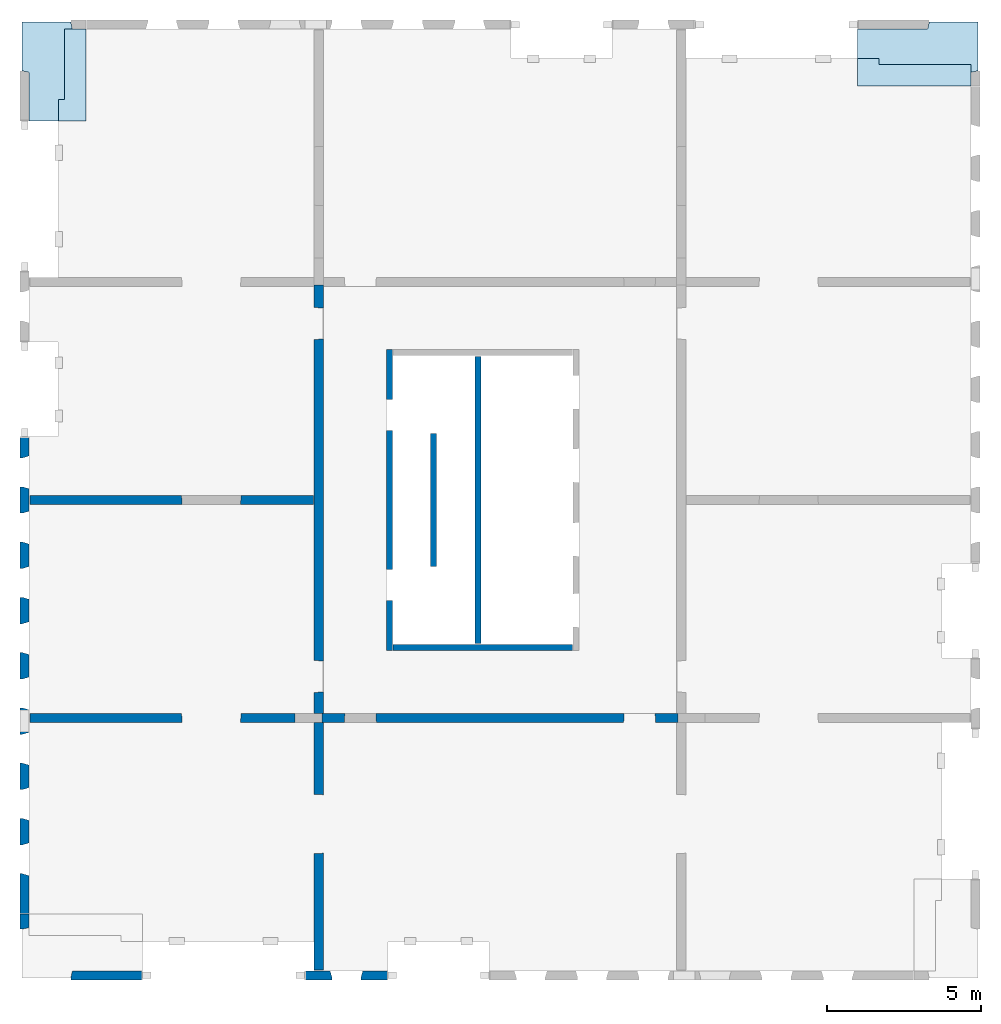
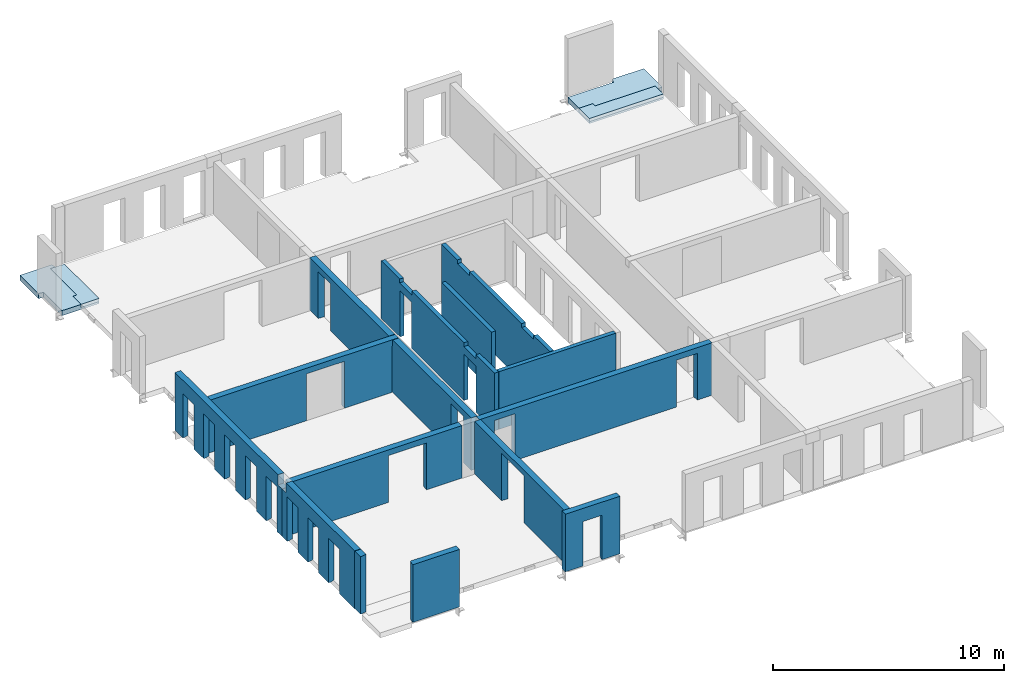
# One storey, part 2 of 4: 14 walls, 4 slabs, 34 openings.
"""IFC2X3 building model written with IfcOpenShell, lengths in millimetres."""

from ifc_helpers import new_model, entity, si_unit, converted_unit, derived_unit, direction, frame, frame_2d, origin, place, context, subcontext, project, spatial, polyline, rectangle, outline, extrude, faceted_brep, material, layer, layer_set, layer_usage, type_object, element, save


model = new_model("IFC2X3")

# Units and contexts
model_context = context("Model", 3, precision=0.01, world=origin(), true_north=direction((6.12303176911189e-17, 1.0)))
body_context = subcontext(model_context, "Body", "Model", "MODEL_VIEW")
ifc_project = project(units=[si_unit("LENGTHUNIT", "METRE", prefix="MILLI"), si_unit("AREAUNIT", "SQUARE_METRE"), si_unit("VOLUMEUNIT", "CUBIC_METRE"), converted_unit("PLANEANGLEUNIT", "DEGREE", entity("IfcRatioMeasure", 0.0174532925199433), si_unit("PLANEANGLEUNIT", "RADIAN"), dimensions=[0, 0, 0, 0, 0, 0, 0]), si_unit("MASSUNIT", "GRAM", prefix="KILO"), derived_unit("MASSDENSITYUNIT", [(si_unit("MASSUNIT", "GRAM", prefix="KILO"), 1), (si_unit("LENGTHUNIT", "METRE"), -3)]), si_unit("TIMEUNIT", "SECOND"), si_unit("FREQUENCYUNIT", "HERTZ"), si_unit("THERMODYNAMICTEMPERATUREUNIT", "DEGREE_CELSIUS"), derived_unit("THERMALTRANSMITTANCEUNIT", [(si_unit("MASSUNIT", "GRAM", prefix="KILO"), 1), (si_unit("THERMODYNAMICTEMPERATUREUNIT", "KELVIN"), -1), (si_unit("TIMEUNIT", "SECOND"), -3)]), derived_unit("VOLUMETRICFLOWRATEUNIT", [(si_unit("LENGTHUNIT", "METRE"), 3), (si_unit("TIMEUNIT", "SECOND"), -1)]), si_unit("ELECTRICCURRENTUNIT", "AMPERE"), si_unit("ELECTRICVOLTAGEUNIT", "VOLT"), si_unit("POWERUNIT", "WATT"), si_unit("FORCEUNIT", "NEWTON", prefix="KILO"), si_unit("ILLUMINANCEUNIT", "LUX"), si_unit("LUMINOUSFLUXUNIT", "LUMEN"), si_unit("LUMINOUSINTENSITYUNIT", "CANDELA"), derived_unit("USERDEFINED", [(si_unit("MASSUNIT", "GRAM", prefix="KILO"), -1), (si_unit("LENGTHUNIT", "METRE"), -2), (si_unit("TIMEUNIT", "SECOND"), 3), (si_unit("LUMINOUSFLUXUNIT", "LUMEN"), 1)]), derived_unit("LINEARVELOCITYUNIT", [(si_unit("LENGTHUNIT", "METRE"), 1), (si_unit("TIMEUNIT", "SECOND"), -1)]), si_unit("PRESSUREUNIT", "PASCAL"), derived_unit("USERDEFINED", [(si_unit("LENGTHUNIT", "METRE"), -2), (si_unit("MASSUNIT", "GRAM", prefix="KILO"), 1), (si_unit("TIMEUNIT", "SECOND"), -2)])], contexts=[model_context])

# Site, building, storey
site_placement = place(None, origin())
site = spatial("IfcSite", under=ifc_project, at=site_placement, Name="Default", CompositionType="ELEMENT")
building_placement = place(site_placement, origin())
building = spatial("IfcBuilding", under=site, at=building_placement, Name="niet gebruiken", CompositionType="ELEMENT")
storey_placement = place(building_placement, frame((0.0, 0.0, 137340.0)))
storey = spatial("IfcBuildingStorey", under=building, at=storey_placement, Name="44 vierenveertigste verdieping", CompositionType="ELEMENT", Elevation=137340.0)

# Slabs
ifc_material_1 = material(Name="NLRS_f2_beton prefab")
ifc_layer_1 = layer(ifc_material_1, 270.0)
ifc_layer_set_1 = layer_set([ifc_layer_1], Name="Floor:NLRS_23.22_FL_beton prefab d=270 3D element_gen")
ifc_layer_usage_1 = layer_usage(ifc_layer_set_1, "AXIS3", "POSITIVE", 0.0)
slab_1_placement = place(storey_placement, origin())
element("IfcSlab", 1, at=slab_1_placement, inside=storey, material=ifc_layer_usage_1, Name="Floor:NLRS_23.22_FL_beton prefab d=270 3D element_gen", ObjectType="Floor:NLRS_23.22_FL_beton prefab d=270 3D element_gen", PredefinedType="LANDING", context=body_context, shape_type="SweptSolid", body=[
    extrude(outline(polyline([(-322.675940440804, -982.471394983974), (1267.47139498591, -982.471394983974), (1267.47139498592, 607.675940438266), (1034.47139498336, 655.152429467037), (1034.47139498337, 1100.5286050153), (-1955.52860501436, 1100.52860501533), (-1955.52860501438, -749.471394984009), (-370.152429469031, -749.471394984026), (-322.675940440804, -982.471394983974)])), frame((127169.471394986, 31795.5286050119, -90.0), z_axis=(0.0, 0.0, -1.0), x_axis=(0.0, 1.0, 0.0)), (0.0, 0.0, 1.0), 270.000000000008),
])
ifc_material_2 = material(Name="NLRS_f2_beton ihwg")
ifc_layer_2 = layer(ifc_material_2, 170.0)
ifc_layer_set_2 = layer_set([ifc_layer_2], Name="Floor:NLRS_23.21_FL_beton ihwg d=170_gen")
ifc_layer_usage_2 = layer_usage(ifc_layer_set_2, "AXIS3", "POSITIVE", 0.0)
slab_2_placement = place(storey_placement, origin())
element("IfcSlab", 2, at=slab_2_placement, inside=storey, material=ifc_layer_usage_2, Name="Floor:NLRS_23.21_FL_beton ihwg d=170_gen", ObjectType="Floor:NLRS_23.21_FL_beton ihwg d=170_gen", PredefinedType="FLOOR", context=body_context, shape_type="SweptSolid", body=[
    extrude(outline(polyline([(-1230.0, -366.666666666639), (-530.0, -366.666666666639), (-530.0, -166.66666666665), (1760.0, -166.666666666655), (1760.0, 533.333333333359), (-1230.0, 533.333333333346), (-1230.0, -366.666666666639)])), frame((127736.666666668, 31070.0, -90.0), z_axis=(0.0, 0.0, -1.0), x_axis=(0.0, 1.0, 0.0)), (0.0, 0.0, 1.0), 169.999999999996),
])
ifc_layer_usage_3 = layer_usage(ifc_layer_set_1, "AXIS3", "POSITIVE", 0.0)
slab_3_placement = place(storey_placement, origin())
element("IfcSlab", 3, at=slab_3_placement, inside=storey, material=ifc_layer_usage_3, Name="Floor:NLRS_23.22_FL_beton prefab d=270 3D element_gen", ObjectType="Floor:NLRS_23.22_FL_beton prefab d=270 3D element_gen", PredefinedType="LANDING", context=body_context, shape_type="SweptSolid", body=[
    extrude(outline(polyline([(-1100.52860501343, -2480.52860501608), (749.471394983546, -2480.52860501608), (749.471394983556, -195.152429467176), (982.471394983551, -147.675940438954), (982.471394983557, 1442.47139498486), (-607.675940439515, 1442.47139498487), (-655.152429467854, 1209.47139498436), (-1100.52860501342, 1209.47139498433), (-1100.52860501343, -2480.52860501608)])), frame((155870.528605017, 32080.5286050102, -90.0), z_axis=(0.0, 0.0, -1.0), x_axis=(0.0, 1.0, 0.0)), (0.0, 0.0, 1.0), 270.000000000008),
])
ifc_layer_usage_4 = layer_usage(ifc_layer_set_2, "AXIS3", "POSITIVE", 0.0)
slab_4_placement = place(storey_placement, origin())
element("IfcSlab", 4, at=slab_4_placement, inside=storey, material=ifc_layer_usage_4, Name="Floor:NLRS_23.21_FL_beton ihwg d=170_gen", ObjectType="Floor:NLRS_23.21_FL_beton ihwg d=170_gen", PredefinedType="FLOOR", context=body_context, shape_type="SweptSolid", body=[
    extrude(outline(polyline([(-533.333333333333, -1463.33333333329), (366.666666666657, -1463.33333333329), (366.666666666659, -763.333333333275), (166.66666666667, -763.333333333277), (166.666666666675, 2226.66666666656), (-533.333333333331, 2226.66666666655), (-533.333333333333, -1463.33333333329)])), frame((154853.333333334, 31513.3333333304, -90.0), z_axis=(0.0, 0.0, -1.0), x_axis=(0.0, 1.0, 0.0)), (0.0, 0.0, 1.0), 169.999999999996),
])

# Wall, openings
ifc_layer_3 = layer(ifc_material_1, 200.0)
ifc_layer_set_3 = layer_set([ifc_layer_3], Name="Basic Wall:NLRS_22.21_WA_beton prefab d=200_gen")
ifc_layer_usage_5 = layer_usage(ifc_layer_set_3, "AXIS2", "NEGATIVE", 100.0)
wall_type_1 = type_object("IfcWallType", Name="Basic Wall:NLRS_22.21_WA_beton prefab d=200_gen", PredefinedType="STANDARD", material=ifc_layer_set_3)
wall_1_placement = place(storey_placement, frame((138150.0, 22400.0, -50.0), z_axis=(0.0, 0.0, 1.0), x_axis=(0.0, -1.0, 0.0)))
wall_1 = element("IfcWallStandardCase", 5, at=wall_1_placement, inside=storey, type_object=wall_type_1, material=ifc_layer_usage_5, Name="Basic Wall:NLRS_22.21_WA_beton prefab d=200_gen", ObjectType="Basic Wall:NLRS_22.21_WA_beton prefab d=200_gen", context=body_context, shape_type="SweptSolid", body=[
    extrude(rectangle(XDim=9800.0, YDim=199.999999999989, at=frame_2d((4900.0, 3.76587649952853e-13), x_axis=(-1.0, 0.0))), origin(), (0.0, 0.0, 1.0), 3040.0),
])
opening_1_placement = place(wall_1_placement, origin())
element("IfcOpeningElement", 6, at=opening_1_placement, cuts=wall_1, Name="Basic Wall:NLRS_22.21_WA_beton prefab d=200_gen", ObjectType="Opening", context=body_context, shape_type="SweptSolid", body=[
    extrude(rectangle(XDim=200.000000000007, YDim=1044.0, at=frame_2d((8.66862137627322e-12, 0.0), x_axis=(1.0, 0.0))), frame((7672.0, -100.0, 2940.0), z_axis=(0.0, 1.0, 0.0), x_axis=(0.0, 0.0, -1.0)), (0.0, 0.0, 1.0), 199.999999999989),
])
opening_2_placement = place(wall_1_placement, origin())
element("IfcOpeningElement", 7, at=opening_2_placement, cuts=wall_1, Name="Basic Wall:NLRS_22.21_WA_beton prefab d=200_gen", ObjectType="Opening", context=body_context, shape_type="SweptSolid", body=[
    extrude(rectangle(XDim=200.000000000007, YDim=1044.0, at=frame_2d((8.66862137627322e-12, 2.1600499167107e-12), x_axis=(1.0, 0.0))), frame((2128.0, -100.0, 2940.0), z_axis=(0.0, 1.0, 0.0), x_axis=(0.0, 0.0, -1.0)), (0.0, 0.0, 1.0), 199.999999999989),
])
opening_3_placement = place(wall_1_placement, origin())
element("IfcOpeningElement", 8, at=opening_3_placement, cuts=wall_1, Name="Basic Wall:NLRS_22.21_WA_beton prefab d=200_gen", ObjectType="Opening", context=body_context, shape_type="SweptSolid", body=[
    extrude(rectangle(XDim=2435.0, YDim=1015.99999999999, at=frame_2d((0.0, 1.10844666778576e-12), x_axis=(1.0, 0.0))), frame((7672.0, -100.0, 1217.50000000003), z_axis=(0.0, 1.0, 0.0), x_axis=(0.0, 0.0, -1.0)), (0.0, 0.0, 1.0), 199.999999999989),
])
opening_4_placement = place(wall_1_placement, origin())
element("IfcOpeningElement", 9, at=opening_4_placement, cuts=wall_1, Name="Basic Wall:NLRS_22.21_WA_beton prefab d=200_gen", ObjectType="Opening", context=body_context, shape_type="SweptSolid", body=[
    extrude(rectangle(XDim=2435.0, YDim=1015.99999999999, at=frame_2d((0.0, -2.18847162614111e-12), x_axis=(1.0, 0.0))), frame((2128.0, -100.0, 1217.50000000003), z_axis=(0.0, 1.0, 0.0), x_axis=(0.0, 0.0, -1.0)), (0.0, 0.0, 1.0), 199.999999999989),
])

ifc_layer_usage_6 = layer_usage(ifc_layer_set_3, "AXIS2", "NEGATIVE", 100.0)
wall_2_placement = place(storey_placement, frame((141030.0, 22180.0, -50.0), z_axis=(0.0, 0.0, 1.0), x_axis=(0.0, -1.0, 0.0)))
wall_2 = element("IfcWallStandardCase", 10, at=wall_2_placement, inside=storey, type_object=wall_type_1, material=ifc_layer_usage_6, Name="Basic Wall:NLRS_22.21_WA_beton prefab d=200_gen", ObjectType="Basic Wall:NLRS_22.21_WA_beton prefab d=200_gen", context=body_context, shape_type="SweptSolid", body=[
    extrude(rectangle(XDim=9360.0, YDim=199.999999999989, at=frame_2d((4680.0, -2.8421709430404e-14), x_axis=(-1.0, 0.0))), origin(), (0.0, 0.0, 1.0), 3040.0),
])
opening_5_placement = place(wall_2_placement, origin())
element("IfcOpeningElement", 11, at=opening_5_placement, cuts=wall_2, Name="Basic Wall:NLRS_22.21_WA_beton prefab d=200_gen", ObjectType="Opening", context=body_context, shape_type="SweptSolid", body=[
    extrude(rectangle(XDim=70.0000000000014, YDim=1044.00000000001, at=frame_2d((-8.66506866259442e-12, 0.0), x_axis=(1.0, 0.0))), frame((7452.0, -100.0, 35.0), z_axis=(0.0, 1.0, 0.0), x_axis=(0.0, 0.0, -1.0)), (0.0, 0.0, 1.0), 199.999999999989),
])
opening_6_placement = place(wall_2_placement, origin())
element("IfcOpeningElement", 12, at=opening_6_placement, cuts=wall_2, Name="Basic Wall:NLRS_22.21_WA_beton prefab d=200_gen", ObjectType="Opening", context=body_context, shape_type="SweptSolid", body=[
    extrude(rectangle(XDim=70.0000000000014, YDim=1044.00000000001, at=frame_2d((-8.66506866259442e-12, 0.0), x_axis=(1.0, 0.0))), frame((1908.0, -100.0, 35.0), z_axis=(0.0, 1.0, 0.0), x_axis=(0.0, 0.0, -1.0)), (0.0, 0.0, 1.0), 199.999999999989),
])
opening_7_placement = place(wall_2_placement, origin())
element("IfcOpeningElement", 13, at=opening_7_placement, cuts=wall_2, Name="Basic Wall:NLRS_22.21_WA_beton prefab d=200_gen", ObjectType="Opening", context=body_context, shape_type="SweptSolid", body=[
    extrude(rectangle(XDim=200.000000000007, YDim=1044.00000000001, at=frame_2d((8.66862137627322e-12, 0.0), x_axis=(1.0, 0.0))), frame((1908.0, -100.0, 2940.0), z_axis=(0.0, 1.0, 0.0), x_axis=(0.0, 0.0, -1.0)), (0.0, 0.0, 1.0), 199.999999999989),
])
opening_8_placement = place(wall_2_placement, origin())
element("IfcOpeningElement", 14, at=opening_8_placement, cuts=wall_2, Name="Basic Wall:NLRS_22.21_WA_beton prefab d=200_gen", ObjectType="Opening", context=body_context, shape_type="SweptSolid", body=[
    extrude(rectangle(XDim=200.000000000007, YDim=1044.00000000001, at=frame_2d((8.66862137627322e-12, 0.0), x_axis=(1.0, 0.0))), frame((7452.0, -100.0, 2940.0), z_axis=(0.0, 1.0, 0.0), x_axis=(0.0, 0.0, -1.0)), (0.0, 0.0, 1.0), 199.999999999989),
])
opening_9_placement = place(wall_2_placement, origin())
element("IfcOpeningElement", 15, at=opening_9_placement, cuts=wall_2, Name="Basic Wall:NLRS_22.21_WA_beton prefab d=200_gen", ObjectType="Recess", context=body_context, shape_type="SweptSolid", body=[
    extrude(rectangle(XDim=399.999999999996, YDim=280.000000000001, at=frame_2d((-2.1600499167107e-12, -8.66862137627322e-12), x_axis=(0.0, 1.0))), frame((770.0, -60.0, 438.0), z_axis=(0.0, 1.0, 0.0), x_axis=(1.0, 0.0, 0.0)), (0.0, 0.0, 1.0), 159.999999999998),
])
opening_10_placement = place(wall_2_placement, origin())
element("IfcOpeningElement", 16, at=opening_10_placement, cuts=wall_2, Name="Basic Wall:NLRS_22.21_WA_beton prefab d=200_gen", ObjectType="Recess", context=body_context, shape_type="SweptSolid", body=[
    extrude(rectangle(XDim=399.999999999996, YDim=280.000000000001, at=frame_2d((-2.1600499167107e-12, -8.66862137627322e-12), x_axis=(0.0, 1.0))), frame((1570.0, -60.0, 438.0), z_axis=(0.0, 1.0, 0.0), x_axis=(1.0, 0.0, 0.0)), (0.0, 0.0, 1.0), 159.999999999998),
])
opening_11_placement = place(wall_2_placement, origin())
element("IfcOpeningElement", 17, at=opening_11_placement, cuts=wall_2, Name="Basic Wall:NLRS_22.21_WA_beton prefab d=200_gen", ObjectType="Recess", context=body_context, shape_type="SweptSolid", body=[
    extrude(rectangle(XDim=399.999999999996, YDim=279.999999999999, at=frame_2d((-1.08002495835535e-12, -8.66862137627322e-12), x_axis=(0.0, 1.0))), frame((3160.0, -60.0, 438.0), z_axis=(0.0, 1.0, 0.0), x_axis=(1.0, 0.0, 0.0)), (0.0, 0.0, 1.0), 159.999999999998),
])
opening_12_placement = place(wall_2_placement, origin())
element("IfcOpeningElement", 18, at=opening_12_placement, cuts=wall_2, Name="Basic Wall:NLRS_22.21_WA_beton prefab d=200_gen", ObjectType="Recess", context=body_context, shape_type="SweptSolid", body=[
    extrude(rectangle(XDim=399.999999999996, YDim=279.999999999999, at=frame_2d((1.08002495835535e-12, -8.66862137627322e-12), x_axis=(0.0, 1.0))), frame((3960.0, -60.0, 438.0), z_axis=(0.0, 1.0, 0.0), x_axis=(1.0, 0.0, 0.0)), (0.0, 0.0, 1.0), 159.999999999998),
])

# Walls
ifc_layer_usage_7 = layer_usage(ifc_layer_set_3, "AXIS2", "NEGATIVE", 100.0)
wall_3_placement = place(storey_placement, frame((139590.0, 19660.0, -50.0), z_axis=(0.0, 0.0, 1.0), x_axis=(0.0, -1.0, 0.0)))
element("IfcWallStandardCase", 19, at=wall_3_placement, inside=storey, type_object=wall_type_1, material=ifc_layer_usage_7, Name="Basic Wall:NLRS_22.21_WA_beton prefab d=200_gen", ObjectType="Basic Wall:NLRS_22.21_WA_beton prefab d=200_gen", context=body_context, shape_type="SweptSolid", body=[
    extrude(rectangle(XDim=4320.00000000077, YDim=199.999999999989, at=frame_2d((2160.00000000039, 0.0), x_axis=(-1.0, 0.0))), origin(), (0.0, 0.0, 1.0), 3040.0),
])
ifc_layer_usage_8 = layer_usage(ifc_layer_set_3, "AXIS2", "NEGATIVE", 100.0)
wall_4_placement = place(storey_placement, frame((138270.0, 12700.0, -50.0)))
element("IfcWallStandardCase", 20, at=wall_4_placement, inside=storey, type_object=wall_type_1, material=ifc_layer_usage_8, Name="Basic Wall:NLRS_22.21_WA_beton prefab d=200_gen", ObjectType="Basic Wall:NLRS_22.21_WA_beton prefab d=200_gen", context=body_context, shape_type="SweptSolid", body=[
    extrude(rectangle(XDim=5839.99999999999, YDim=199.999999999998, at=frame_2d((2919.99999999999, -6.82121026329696e-13), x_axis=(-1.0, 0.0))), origin(), (0.0, 0.0, 1.0), 3040.0),
])

# Wall, opening
ifc_layer_4 = layer(ifc_material_1, 300.0)
ifc_layer_set_4 = layer_set([ifc_layer_4], Name="Basic Wall:NLRS_22.21_WA_beton prefab d=300_gen")
ifc_layer_usage_9 = layer_usage(ifc_layer_set_4, "AXIS2", "NEGATIVE", 150.0)
wall_type_2 = type_object("IfcWallType", Name="Basic Wall:NLRS_22.21_WA_beton prefab d=300_gen", PredefinedType="STANDARD", material=ifc_layer_set_4)
wall_5_placement = place(storey_placement, frame((135850.0, 10250.0, -70.0), z_axis=(0.0, 0.0, 1.0), x_axis=(0.0, -1.0, 0.0)))
wall_5 = element("IfcWallStandardCase", 21, at=wall_5_placement, inside=storey, type_object=wall_type_2, material=ifc_layer_usage_9, Name="Basic Wall:NLRS_22.21_WA_beton prefab d=300_gen", ObjectType="Basic Wall:NLRS_22.21_WA_beton prefab d=300_gen", context=body_context, shape_type="SweptSolid", body=[
    extrude(rectangle(XDim=8059.99999999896, YDim=300.000000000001, at=frame_2d((4029.99999999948, 1.22213350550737e-12), x_axis=(-1.0, 0.0))), origin(), (0.0, 0.0, 1.0), 2769.99999999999),
])
opening_13_placement = place(wall_5_placement, frame((4268.0, -150.0, 0.0)))
element("IfcOpeningElement", 22, at=opening_13_placement, cuts=wall_5, Name="Basic Wall:NLRS_22.21_WA_beton prefab d=300_gen", ObjectType="Opening", context=body_context, shape_type="Brep", body=[
    faceted_brep([(-18.0, 300.0, 2470.0), (-18.0, 300.0, 0.0), (-1918.0, 300.0, 0.0), (-1918.0, 300.0, 2470.0), (0.0, 0.0, 2488.0), (-1936.0, 0.0, 2488.0), (-1936.0, 0.0, 0.0), (0.0, 0.0, 0.0)], [[[0, 1, 2, 3]], [[4, 5, 6, 7]], [[4, 0, 3, 5]], [[5, 3, 2, 6]], [[6, 2, 1, 7]], [[7, 1, 0, 4]]]),
])

# Wall, openings
ifc_layer_usage_10 = layer_usage(ifc_layer_set_4, "AXIS2", "NEGATIVE", 150.0)
wall_6_placement = place(storey_placement, frame((135950.003540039, 10400.0, -70.0)))
wall_6 = element("IfcWallStandardCase", 23, at=wall_6_placement, inside=storey, type_object=wall_type_2, material=ifc_layer_usage_10, Name="Basic Wall:NLRS_22.21_WA_beton prefab d=300_gen", ObjectType="Basic Wall:NLRS_22.21_WA_beton prefab d=300_gen", context=body_context, shape_type="SweptSolid", body=[
    extrude(rectangle(XDim=11599.9964599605, YDim=300.000000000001, at=frame_2d((5799.99822998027, 1.70530256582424e-13), x_axis=(-1.0, 0.0))), origin(), (0.0, 0.0, 1.0), 2769.99999999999),
])
opening_14_placement = place(wall_6_placement, frame((731.996459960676, -150.0, 0.0)))
element("IfcOpeningElement", 24, at=opening_14_placement, cuts=wall_6, Name="Basic Wall:NLRS_22.21_WA_beton prefab d=300_gen", ObjectType="Opening", context=body_context, shape_type="Brep", body=[
    faceted_brep([(0.0, 0.0, 2466.0), (18.0, 300.0, 2448.0), (18.0, 300.0, 0.0), (0.0, 0.0, 0.0), (1024.0, 300.0, 0.0), (1042.0, 0.0, 0.0), (1024.0, 300.0, 2448.0), (1042.0, 0.0, 2466.0)], [[[0, 1, 2, 3]], [[3, 2, 4, 5]], [[6, 4, 2, 1]], [[7, 0, 3, 5]], [[7, 6, 1, 0]], [[5, 4, 6, 7]]]),
])
opening_15_placement = place(wall_6_placement, frame((9825.99645996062, -150.0, 0.0)))
element("IfcOpeningElement", 25, at=opening_15_placement, cuts=wall_6, Name="Basic Wall:NLRS_22.21_WA_beton prefab d=300_gen", ObjectType="Opening", context=body_context, shape_type="Brep", body=[
    faceted_brep([(0.0, 0.0, 2466.0), (18.0, 300.0, 2448.0), (18.0, 300.0, 0.0), (0.0, 0.0, 0.0), (1024.0, 300.0, 0.0), (1042.0, 0.0, 0.0), (1024.0, 300.0, 2448.0), (1042.0, 0.0, 2466.0)], [[[0, 1, 2, 3]], [[3, 2, 4, 5]], [[6, 4, 2, 1]], [[7, 0, 3, 5]], [[7, 6, 1, 0]], [[5, 4, 6, 7]]]),
])

ifc_layer_usage_11 = layer_usage(ifc_layer_set_4, "AXIS2", "NEGATIVE", 150.0)
wall_7_placement = place(storey_placement, frame((126440.0, 17500.0, -70.0)))
wall_7 = element("IfcWallStandardCase", 26, at=wall_7_placement, inside=storey, type_object=wall_type_2, material=ifc_layer_usage_11, Name="Basic Wall:NLRS_22.21_WA_beton prefab d=300_gen", ObjectType="Basic Wall:NLRS_22.21_WA_beton prefab d=300_gen", context=body_context, shape_type="SweptSolid", body=[
    extrude(rectangle(XDim=9559.9999999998, YDim=300.000000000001, at=frame_2d((4779.9999999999, -5.54223333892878e-13), x_axis=(-1.0, 0.0))), origin(), (0.0, 0.0, 1.0), 2769.99999999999),
])
opening_16_placement = place(wall_7_placement, frame((4942.0, -150.0, 0.0)))
element("IfcOpeningElement", 27, at=opening_16_placement, cuts=wall_7, Name="Basic Wall:NLRS_22.21_WA_beton prefab d=300_gen", ObjectType="Opening", context=body_context, shape_type="Brep", body=[
    faceted_brep([(1918.0, 0.0, 2470.0), (18.0, 0.0, 2470.0), (18.0, 0.0, 0.0), (1918.0, 0.0, 0.0), (1936.0, 300.0, 2488.0), (1936.0, 300.0, 0.0), (0.0, 300.0, 0.0), (0.0, 300.0, 2488.0)], [[[0, 1, 2, 3]], [[4, 5, 6, 7]], [[4, 7, 1, 0]], [[7, 6, 2, 1]], [[6, 5, 3, 2]], [[5, 4, 0, 3]]]),
])
opening_17_placement = place(wall_7_placement, origin())
element("IfcOpeningElement", 28, at=opening_17_placement, cuts=wall_7, Name="Basic Wall:NLRS_22.21_WA_beton prefab d=300_gen", ObjectType="Opening", context=body_context, shape_type="SweptSolid", body=[
    extrude(rectangle(XDim=2439.99999999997, YDim=319.999999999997, at=frame_2d((0.0, 0.0), x_axis=(0.0, 1.0))), frame((9400.0, 150.0, 1220.0), z_axis=(0.0, -1.0, 0.0), x_axis=(1.0, 0.0, 0.0)), (0.0, 0.0, 1.0), 300.0),
])

# Wall, opening
ifc_layer_usage_12 = layer_usage(ifc_layer_set_4, "AXIS2", "NEGATIVE", 150.0)
wall_8_placement = place(storey_placement, frame((126440.0, 10400.0, -70.0)))
wall_8 = element("IfcWallStandardCase", 29, at=wall_8_placement, inside=storey, type_object=wall_type_2, material=ifc_layer_usage_12, Name="Basic Wall:NLRS_22.21_WA_beton prefab d=300_gen", ObjectType="Basic Wall:NLRS_22.21_WA_beton prefab d=300_gen", context=body_context, shape_type="SweptSolid", body=[
    extrude(rectangle(XDim=8630.00354003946, YDim=300.000000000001, at=frame_2d((4315.00177001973, -2.70006239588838e-13), x_axis=(-1.0, 0.0))), origin(), (0.0, 0.0, 1.0), 2769.99999999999),
])
opening_18_placement = place(wall_8_placement, frame((4942.0, -150.0, 0.0)))
element("IfcOpeningElement", 30, at=opening_18_placement, cuts=wall_8, Name="Basic Wall:NLRS_22.21_WA_beton prefab d=300_gen", ObjectType="Opening", context=body_context, shape_type="Brep", body=[
    faceted_brep([(1918.0, 0.0, 2470.0), (18.0, 0.0, 2470.0), (18.0, 0.0, 0.0), (1918.0, 0.0, 0.0), (1936.0, 300.0, 2488.0), (1936.0, 300.0, 0.0), (0.0, 300.0, 0.0), (0.0, 300.0, 2488.0)], [[[0, 1, 2, 3]], [[4, 5, 6, 7]], [[4, 7, 1, 0]], [[7, 6, 2, 1]], [[6, 5, 3, 2]], [[5, 4, 0, 3]]]),
])

# Wall, openings
ifc_layer_usage_13 = layer_usage(ifc_layer_set_4, "AXIS2", "NEGATIVE", 150.0)
wall_9_placement = place(storey_placement, frame((135850.0, 24500.0, -70.0), z_axis=(0.0, 0.0, 1.0), x_axis=(0.0, -1.0, 0.0)))
wall_9 = element("IfcWallStandardCase", 31, at=wall_9_placement, inside=storey, type_object=wall_type_2, material=ifc_layer_usage_13, Name="Basic Wall:NLRS_22.21_WA_beton prefab d=300_gen", ObjectType="Basic Wall:NLRS_22.21_WA_beton prefab d=300_gen", context=body_context, shape_type="SweptSolid", body=[
    extrude(rectangle(XDim=13949.999999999, YDim=300.000000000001, at=frame_2d((6974.99999999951, 4.2632564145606e-14), x_axis=(-1.0, 0.0))), origin(), (0.0, 0.0, 1.0), 2769.99999999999),
])
opening_19_placement = place(wall_9_placement, frame((13268.0, -150.0, 0.0)))
element("IfcOpeningElement", 32, at=opening_19_placement, cuts=wall_9, Name="Basic Wall:NLRS_22.21_WA_beton prefab d=300_gen", ObjectType="Opening", context=body_context, shape_type="Brep", body=[
    faceted_brep([(-1042.0, 0.0, 2466.0), (-1024.0, 300.0, 2448.0), (-1024.0, 300.0, 0.0), (-1042.0, 0.0, 0.0), (-18.0, 300.0, 0.0), (0.0, 0.0, 0.0), (-18.0, 300.0, 2448.0), (0.0, 0.0, 2466.0)], [[[0, 1, 2, 3]], [[3, 2, 4, 5]], [[6, 4, 2, 1]], [[7, 0, 3, 5]], [[7, 6, 1, 0]], [[5, 4, 6, 7]]]),
])
opening_20_placement = place(wall_9_placement, frame((1774.0, -150.0, 0.0)))
element("IfcOpeningElement", 33, at=opening_20_placement, cuts=wall_9, Name="Basic Wall:NLRS_22.21_WA_beton prefab d=300_gen", ObjectType="Opening", context=body_context, shape_type="Brep", body=[
    faceted_brep([(-1042.0, 0.0, 2466.0), (-1024.0, 300.0, 2448.0), (-1024.0, 300.0, 0.0), (-1042.0, 0.0, 0.0), (-18.0, 300.0, 0.0), (0.0, 0.0, 0.0), (-18.0, 300.0, 2448.0), (0.0, 0.0, 2466.0)], [[[0, 1, 2, 3]], [[3, 2, 4, 5]], [[6, 4, 2, 1]], [[7, 0, 3, 5]], [[7, 6, 1, 0]], [[5, 4, 6, 7]]]),
])
opening_21_placement = place(wall_9_placement, origin())
element("IfcOpeningElement", 34, at=opening_21_placement, cuts=wall_9, Name="Basic Wall:NLRS_22.21_WA_beton prefab d=300_gen", ObjectType="Opening", context=body_context, shape_type="SweptSolid", body=[
    extrude(rectangle(XDim=350.000000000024, YDim=339.999999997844, at=frame_2d((0.0, 0.0), x_axis=(0.0, 1.0))), frame((7000.0, 150.0, 2595.0), z_axis=(0.0, -1.0, 0.0), x_axis=(-1.0, 0.0, 0.0)), (0.0, 0.0, 1.0), 300.0),
])

# Wall, opening
ifc_layer_5 = layer(ifc_material_1, 300.0)
ifc_layer_set_5 = layer_set([ifc_layer_5], Name="Basic Wall:NLRS_21.21_WA_beton prefab d=300/320_gen")
ifc_layer_usage_14 = layer_usage(ifc_layer_set_5, "AXIS2", "NEGATIVE", 150.0)
wall_type_3 = type_object("IfcWallType", Name="Basic Wall:NLRS_21.21_WA_beton prefab d=300/320_gen", PredefinedType="STANDARD", material=ifc_layer_set_5)
wall_10_placement = place(storey_placement, frame((138110.0, 2020.0, -50.0), z_axis=(0.0, 0.0, 1.0), x_axis=(-1.0, 0.0, 0.0)))
wall_10 = element("IfcWallStandardCase", 35, at=wall_10_placement, inside=storey, type_object=wall_type_3, material=ifc_layer_usage_14, Name="Basic Wall:NLRS_21.21_WA_beton prefab d=300/320_gen", ObjectType="Basic Wall:NLRS_21.21_WA_beton prefab d=300/320_gen", context=body_context, shape_type="SweptSolid", body=[
    extrude(rectangle(XDim=2720.00000000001, YDim=300.0, at=frame_2d((1360.0, -8.5265128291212e-14), x_axis=(-1.0, 0.0))), origin(), (0.0, 0.0, 1.0), 3040.0),
])
opening_22_placement = place(wall_10_placement, frame((1895.0, 150.0, -20.0)))
element("IfcOpeningElement", 36, at=opening_22_placement, cuts=wall_10, Name="Basic Wall:NLRS_21.21_WA_beton prefab d=300/320_gen", ObjectType="Opening", context=body_context, shape_type="Brep", body=[
    faceted_brep([(-1070.0, -300.0, 2405.0), (-1070.0, -300.0, 0.0), (0.0, -300.0, 0.0), (0.0, -300.0, 2405.0), (-65.0, -81.0, 2370.0), (-1005.0, -81.0, 2370.0), (-65.0, -81.0, 0.0), (-1005.0, -81.0, 0.0), (-1005.0, 0.0, 0.0), (-65.0, 0.0, 0.0), (-1005.0, 0.0, 2370.0), (-65.0, 0.0, 2370.0)], [[[0, 1, 2, 3]], [[3, 4, 5, 0]], [[2, 6, 4, 3]], [[1, 7, 8, 9, 6, 2]], [[0, 5, 7, 1]], [[10, 11, 9, 8]], [[10, 5, 4, 11]], [[11, 4, 6, 9]], [[8, 7, 5, 10]]]),
])

# Wall, openings
ifc_layer_usage_15 = layer_usage(ifc_layer_set_5, "AXIS2", "NEGATIVE", 150.0)
wall_11_placement = place(storey_placement, frame((126270.0, 4040.0, -50.0), z_axis=(0.0, 0.0, 1.0), x_axis=(0.0, 1.0, 0.0)))
wall_11 = element("IfcWallStandardCase", 37, at=wall_11_placement, inside=storey, type_object=wall_type_3, material=ifc_layer_usage_15, Name="Basic Wall:NLRS_21.21_WA_beton prefab d=300/320_gen", ObjectType="Basic Wall:NLRS_21.21_WA_beton prefab d=300/320_gen", context=body_context, shape_type="SweptSolid", body=[
    extrude(rectangle(XDim=6249.99999999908, YDim=300.000000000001, at=frame_2d((3124.99999999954, 0.0), x_axis=(-1.0, 0.0))), origin(), (0.0, 0.0, 1.0), 3040.0),
])
opening_23_placement = place(wall_11_placement, frame((1225.0, 150.0, -20.0)))
element("IfcOpeningElement", 38, at=opening_23_placement, cuts=wall_11, Name="Basic Wall:NLRS_21.21_WA_beton prefab d=300/320_gen", ObjectType="Opening", context=body_context, shape_type="Brep", body=[
    faceted_brep([(0.0, -300.0, 2405.0), (0.0, -300.0, 0.0), (1070.0, -300.0, 0.0), (1070.0, -300.0, 2405.0), (1005.0, -81.0, 2370.0), (65.0, -81.0, 2370.0), (1005.0, -81.0, 0.0), (65.0, -81.0, 0.0), (65.0, 0.0, 0.0), (1005.0, 0.0, 0.0), (65.0, 0.0, 2370.0), (1005.0, 0.0, 2370.0)], [[[0, 1, 2, 3]], [[3, 4, 5, 0]], [[2, 6, 4, 3]], [[1, 7, 8, 9, 6, 2]], [[0, 5, 7, 1]], [[10, 11, 9, 8]], [[10, 5, 4, 11]], [[11, 4, 6, 9]], [[8, 7, 5, 10]]]),
])
opening_24_placement = place(wall_11_placement, frame((3025.0, 150.0, -20.0)))
element("IfcOpeningElement", 39, at=opening_24_placement, cuts=wall_11, Name="Basic Wall:NLRS_21.21_WA_beton prefab d=300/320_gen", ObjectType="Opening", context=body_context, shape_type="Brep", body=[
    faceted_brep([(0.0, -300.0, 2405.0), (0.0, -300.0, 0.0), (1070.0, -300.0, 0.0), (1070.0, -300.0, 2405.0), (1005.0, -81.0, 2370.0), (65.0, -81.0, 2370.0), (1005.0, -81.0, 0.0), (65.0, -81.0, 0.0), (65.0, 0.0, 0.0), (1005.0, 0.0, 0.0), (65.0, 0.0, 2370.0), (1005.0, 0.0, 2370.0)], [[[0, 1, 2, 3]], [[3, 4, 5, 0]], [[2, 6, 4, 3]], [[1, 7, 8, 9, 6, 2]], [[0, 5, 7, 1]], [[10, 11, 9, 8]], [[10, 5, 4, 11]], [[11, 4, 6, 9]], [[8, 7, 5, 10]]]),
])
opening_25_placement = place(wall_11_placement, frame((4825.0, 150.0, -20.0)))
element("IfcOpeningElement", 40, at=opening_25_placement, cuts=wall_11, Name="Basic Wall:NLRS_21.21_WA_beton prefab d=300/320_gen", ObjectType="Opening", context=body_context, shape_type="Brep", body=[
    faceted_brep([(0.0, -300.0, 2405.0), (0.0, -300.0, 0.0), (1070.0, -300.0, 0.0), (1070.0, -300.0, 2405.0), (1005.0, -81.0, 2370.0), (65.0, -81.0, 2370.0), (1005.0, -81.0, 0.0), (65.0, -81.0, 0.0), (65.0, 0.0, 0.0), (1005.0, 0.0, 0.0), (65.0, 0.0, 2370.0), (1005.0, 0.0, 2370.0)], [[[0, 1, 2, 3]], [[3, 4, 5, 0]], [[2, 6, 4, 3]], [[1, 7, 8, 9, 6, 2]], [[0, 5, 7, 1]], [[10, 11, 9, 8]], [[10, 5, 4, 11]], [[11, 4, 6, 9]], [[8, 7, 5, 10]]]),
])
opening_26_placement = place(wall_11_placement, origin())
element("IfcOpeningElement", 41, at=opening_26_placement, cuts=wall_11, Name="Basic Wall:NLRS_21.21_WA_beton prefab d=300/320_gen", ObjectType="Opening", context=body_context, shape_type="SweptSolid", body=[
    extrude(rectangle(XDim=534.99999999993, YDim=344.999999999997, at=frame_2d((0.0, 1.08002495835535e-12), x_axis=(1.0, 0.0))), frame((6077.49999999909, 150.0, 2772.50000000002), z_axis=(0.0, -1.0, 0.0), x_axis=(0.0, 0.0, 1.0)), (0.0, 0.0, 1.0), 300.0),
])

# Wall, opening
ifc_layer_usage_16 = layer_usage(ifc_layer_set_5, "AXIS2", "NEGATIVE", 150.0)
wall_12_placement = place(storey_placement, frame((130110.0, 2020.0, -50.0), z_axis=(0.0, 0.0, 1.0), x_axis=(-1.0, 0.0, 0.0)))
wall_12 = element("IfcWallStandardCase", 42, at=wall_12_placement, inside=storey, type_object=wall_type_3, material=ifc_layer_usage_16, Name="Basic Wall:NLRS_21.21_WA_beton prefab d=300/320_gen", ObjectType="Basic Wall:NLRS_21.21_WA_beton prefab d=300/320_gen", context=body_context, shape_type="SweptSolid", body=[
    extrude(rectangle(XDim=2330.00000000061, YDim=300.0, at=frame_2d((1165.00000000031, -5.6843418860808e-14), x_axis=(-1.0, 0.0))), origin(), (0.0, 0.0, 1.0), 3040.0),
])
opening_27_placement = place(wall_12_placement, frame((2330.0, 69.0, 0.0)))
element("IfcOpeningElement", 43, at=opening_27_placement, cuts=wall_12, Name="Basic Wall:NLRS_21.21_WA_beton prefab d=300/320_gen", ObjectType="Opening", context=body_context, shape_type="Brep", body=[
    faceted_brep([(0.0, -319.0, 3040.0), (0.0, 0.0, 3040.0), (-65.0, -319.0, 3040.0), (0.0, -319.0, 0.0), (-65.0, -319.0, 0.0), (0.0, 0.0, 0.0)], [[[0, 1, 2]], [[3, 4, 5]], [[2, 4, 3, 0]], [[0, 3, 5, 1]], [[1, 5, 4, 2]]]),
])

ifc_layer_usage_17 = layer_usage(ifc_layer_set_5, "AXIS2", "NEGATIVE", 150.0)
wall_13_placement = place(storey_placement, frame((126270.0, 3530.0, -50.0), z_axis=(0.0, 0.0, 1.0), x_axis=(0.0, 1.0, 0.0)))
wall_13 = element("IfcWallStandardCase", 44, at=wall_13_placement, inside=storey, type_object=wall_type_3, material=ifc_layer_usage_17, Name="Basic Wall:NLRS_21.21_WA_beton prefab d=300/320_gen", ObjectType="Basic Wall:NLRS_21.21_WA_beton prefab d=300/320_gen", context=body_context, shape_type="SweptSolid", body=[
    extrude(rectangle(XDim=489.999999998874, YDim=300.000000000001, at=frame_2d((244.999999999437, -3.25428572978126e-12), x_axis=(-1.0, 0.0))), origin(), (0.0, 0.0, 1.0), 3040.0),
])
opening_28_placement = place(wall_13_placement, frame((-1.97405825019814e-09, 69.0, 0.0)))
element("IfcOpeningElement", 45, at=opening_28_placement, cuts=wall_13, Name="Basic Wall:NLRS_21.21_WA_beton prefab d=300/320_gen", ObjectType="Opening", context=body_context, shape_type="Brep", body=[
    faceted_brep([(0.0, -319.0, 3040.0), (65.0, -319.0, 3040.0), (0.0, 0.0, 3040.0), (0.0, -319.0, 0.0), (0.0, 0.0, 0.0), (65.0, -319.0, 0.0)], [[[0, 1, 2]], [[3, 4, 5]], [[1, 0, 3, 5]], [[0, 2, 4, 3]], [[2, 1, 5, 4]]]),
])

# Wall, openings
ifc_layer_usage_18 = layer_usage(ifc_layer_set_5, "AXIS2", "NEGATIVE", 150.0)
wall_14_placement = place(storey_placement, frame((126270.0, 10310.0, -50.0), z_axis=(0.0, 0.0, 1.0), x_axis=(0.0, 1.0, 0.0)))
wall_14 = element("IfcWallStandardCase", 46, at=wall_14_placement, inside=storey, type_object=wall_type_3, material=ifc_layer_usage_18, Name="Basic Wall:NLRS_21.21_WA_beton prefab d=300/320_gen", ObjectType="Basic Wall:NLRS_21.21_WA_beton prefab d=300/320_gen", context=body_context, shape_type="SweptSolid", body=[
    extrude(rectangle(XDim=9250.00000000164, YDim=300.000000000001, at=frame_2d((4625.00000000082, 0.0), x_axis=(-1.0, 0.0))), origin(), (0.0, 0.0, 1.0), 3040.0),
])
opening_29_placement = place(wall_14_placement, frame((7555.0, 150.0, -20.0)))
element("IfcOpeningElement", 47, at=opening_29_placement, cuts=wall_14, Name="Basic Wall:NLRS_21.21_WA_beton prefab d=300/320_gen", ObjectType="Opening", context=body_context, shape_type="Brep", body=[
    faceted_brep([(0.0, -300.0, 2405.0), (0.0, -300.0, 0.0), (1070.0, -300.0, 0.0), (1070.0, -300.0, 2405.0), (1005.0, -81.0, 2370.0), (65.0, -81.0, 2370.0), (1005.0, -81.0, 0.0), (65.0, -81.0, 0.0), (65.0, 0.0, 0.0), (1005.0, 0.0, 0.0), (65.0, 0.0, 2370.0), (1005.0, 0.0, 2370.0)], [[[0, 1, 2, 3]], [[3, 4, 5, 0]], [[2, 6, 4, 3]], [[1, 7, 8, 9, 6, 2]], [[0, 5, 7, 1]], [[10, 11, 9, 8]], [[10, 5, 4, 11]], [[11, 4, 6, 9]], [[8, 7, 5, 10]]]),
])
opening_30_placement = place(wall_14_placement, frame((3955.0, 150.0, -20.0)))
element("IfcOpeningElement", 48, at=opening_30_placement, cuts=wall_14, Name="Basic Wall:NLRS_21.21_WA_beton prefab d=300/320_gen", ObjectType="Opening", context=body_context, shape_type="Brep", body=[
    faceted_brep([(0.0, -300.0, 2405.0), (0.0, -300.0, 0.0), (1070.0, -300.0, 0.0), (1070.0, -300.0, 2405.0), (1005.0, -81.0, 2370.0), (65.0, -81.0, 2370.0), (1005.0, -81.0, 0.0), (65.0, -81.0, 0.0), (65.0, 0.0, 0.0), (1005.0, 0.0, 0.0), (65.0, 0.0, 2370.0), (1005.0, 0.0, 2370.0)], [[[0, 1, 2, 3]], [[3, 4, 5, 0]], [[2, 6, 4, 3]], [[1, 7, 8, 9, 6, 2]], [[0, 5, 7, 1]], [[10, 11, 9, 8]], [[10, 5, 4, 11]], [[11, 4, 6, 9]], [[8, 7, 5, 10]]]),
])
opening_31_placement = place(wall_14_placement, frame((2155.0, 150.0, -20.0)))
element("IfcOpeningElement", 49, at=opening_31_placement, cuts=wall_14, Name="Basic Wall:NLRS_21.21_WA_beton prefab d=300/320_gen", ObjectType="Opening", context=body_context, shape_type="Brep", body=[
    faceted_brep([(0.0, -300.0, 2405.0), (0.0, -300.0, 0.0), (1070.0, -300.0, 0.0), (1070.0, -300.0, 2405.0), (1005.0, -81.0, 2370.0), (65.0, -81.0, 2370.0), (1005.0, -81.0, 0.0), (65.0, -81.0, 0.0), (65.0, 0.0, 0.0), (1005.0, 0.0, 0.0), (65.0, 0.0, 2370.0), (1005.0, 0.0, 2370.0)], [[[0, 1, 2, 3]], [[3, 4, 5, 0]], [[2, 6, 4, 3]], [[1, 7, 8, 9, 6, 2]], [[0, 5, 7, 1]], [[10, 11, 9, 8]], [[10, 5, 4, 11]], [[11, 4, 6, 9]], [[8, 7, 5, 10]]]),
])
opening_32_placement = place(wall_14_placement, frame((5755.0, 150.0, -20.0)))
element("IfcOpeningElement", 50, at=opening_32_placement, cuts=wall_14, Name="Basic Wall:NLRS_21.21_WA_beton prefab d=300/320_gen", ObjectType="Opening", context=body_context, shape_type="Brep", body=[
    faceted_brep([(0.0, -300.0, 2405.0), (0.0, -300.0, 0.0), (1070.0, -300.0, 0.0), (1070.0, -300.0, 2405.0), (1005.0, -81.0, 2370.0), (65.0, -81.0, 2370.0), (1005.0, -81.0, 0.0), (65.0, -81.0, 0.0), (65.0, 0.0, 0.0), (1005.0, 0.0, 0.0), (65.0, 0.0, 2370.0), (1005.0, 0.0, 2370.0)], [[[0, 1, 2, 3]], [[3, 4, 5, 0]], [[2, 6, 4, 3]], [[1, 7, 8, 9, 6, 2]], [[0, 5, 7, 1]], [[10, 11, 9, 8]], [[10, 5, 4, 11]], [[11, 4, 6, 9]], [[8, 7, 5, 10]]]),
])
opening_33_placement = place(wall_14_placement, frame((355.0, 150.0, -20.0)))
element("IfcOpeningElement", 51, at=opening_33_placement, cuts=wall_14, Name="Basic Wall:NLRS_21.21_WA_beton prefab d=300/320_gen", ObjectType="Opening", context=body_context, shape_type="Brep", body=[
    faceted_brep([(1070.0, -300.0, 2405.0), (0.0, -300.0, 2405.0), (0.0, -300.0, 0.0), (1070.0, -300.0, 0.0), (1005.0, -81.0, 2370.0), (65.0, -81.0, 2370.0), (65.0, -81.0, 0.0), (65.0, 0.0, 0.0), (1005.0, 0.0, 0.0), (1005.0, -81.0, 0.0), (1005.0, 0.0, 2370.0), (65.0, 0.0, 2370.0)], [[[0, 1, 2, 3]], [[1, 0, 4, 5]], [[2, 1, 5, 6]], [[3, 2, 6, 7, 8, 9]], [[0, 3, 9, 4]], [[10, 8, 7, 11]], [[10, 11, 5, 4]], [[11, 7, 6, 5]], [[8, 10, 4, 9]]]),
])
opening_34_placement = place(wall_14_placement, origin())
element("IfcOpeningElement", 52, at=opening_34_placement, cuts=wall_14, Name="Basic Wall:NLRS_21.21_WA_beton prefab d=300/320_gen", ObjectType="Opening", context=body_context, shape_type="SweptSolid", body=[
    extrude(rectangle(XDim=534.999999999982, YDim=345.000000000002, at=frame_2d((1.08002495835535e-12, -8.66862137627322e-12), x_axis=(0.0, 1.0))), frame((172.500000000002, 150.0, 2772.5), z_axis=(0.0, -1.0, 0.0), x_axis=(-1.0, 0.0, 0.0)), (0.0, 0.0, 1.0), 300.0),
])

save(model, "model.ifc")
